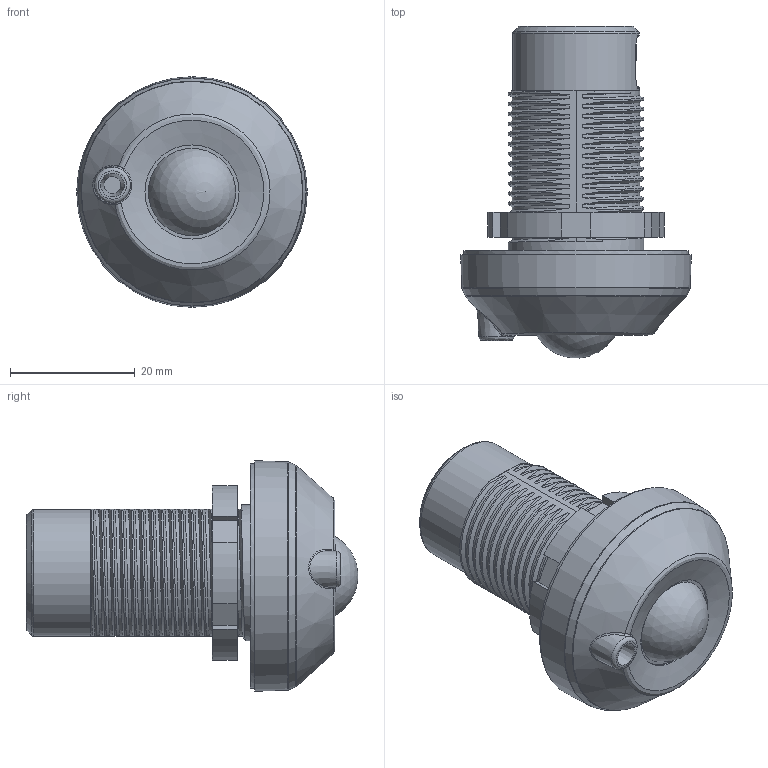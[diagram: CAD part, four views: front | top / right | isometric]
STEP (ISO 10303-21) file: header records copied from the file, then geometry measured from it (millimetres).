
FILE_DESCRIPTION (( 'STEP AP203' ), '1' );
FILE_NAME ('9C1-4549547-000-00.STP', '2025-08-08T12:36:34', ( '' ), ( '' ), 'SwSTEP 2.0', 'SolidWorks 2023', '' );
FILE_SCHEMA (( 'CONFIG_CONTROL_DESIGN' ));
Length unit declared in the file: millimetre
Products named in the file (1): 9C1-4549547-000-00
Bounding box: 36.99 x 53.24 x 36.99 mm (x, y, z)
Volume: 24920.4 mm3; surface area: 7528.4 mm2
Topology: 2 solids, 3 shells, 293 faces, 860 edges, 578 vertices
Faces by surface type: plane 100, bspline 90, cylinder 82, cone 17, torus 3, sphere 1
Full cylindrical faces by diameter (mm): 20.36 x1, 21.8 x1, 22.6 x1
Entity records: 24430 total; most frequent: CARTESIAN_POINT 17907, ORIENTED_EDGE 1652, EDGE_CURVE 826, DIRECTION 812, VERTEX_POINT 564, B_SPLINE_CURVE_WITH_KNOTS 459, EDGE_LOOP 320, LINE 302
